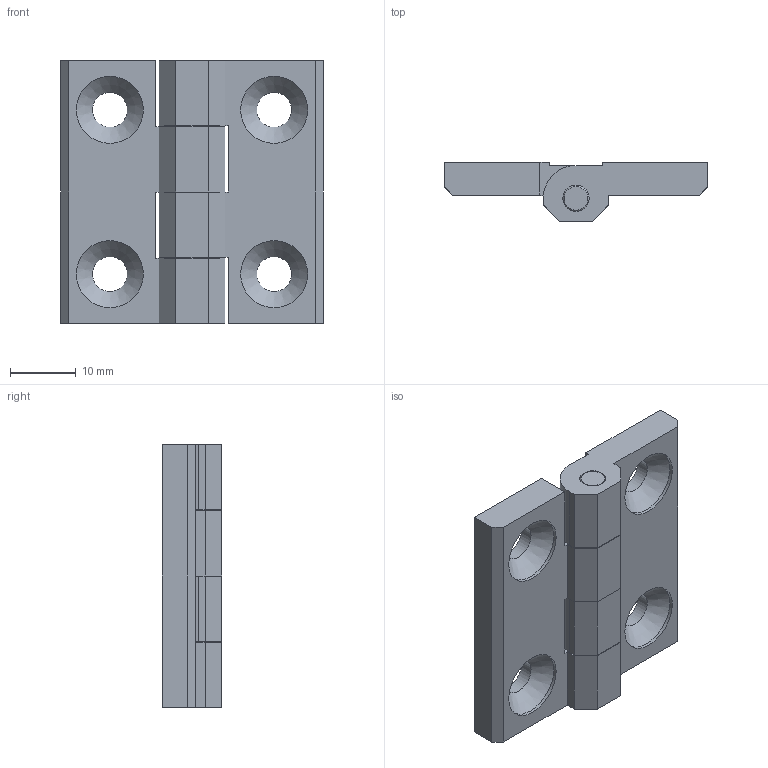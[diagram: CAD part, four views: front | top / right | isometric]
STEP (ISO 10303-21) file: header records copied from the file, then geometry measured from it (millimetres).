
FILE_DESCRIPTION( ( 'STEP AP203' ), '1' );
FILE_NAME( 'C:/Temp/Ganter_Step_05_03_2020/data/3_3/gn_237/gn_237_al/Aluminum-Hinge GN 237-AL-40-40-A-EL (0).stp', '2020-03-12T11:57:04', ( 'License CC BY-ND 4.0' ), ( 'CADENAS' ), ' ', 'PARTsolutions', ' ' );
FILE_SCHEMA( ( 'CONFIG_CONTROL_DESIGN' ) );
Length unit declared in the file: millimetre
Products named in the file (3): Aluminum-Hinge GN 237-AL-40-40-A-EL (0); _Aluminum-Hinge GN 237-AL-40-40-A-EL (0)_1; _Aluminum-Hinge GN 237-AL-40-40-A-EL (0)_2
Assembly tree (2 placements, depth 2):
  Aluminum-Hinge GN 237-AL-40-40-A-EL (0)
    _Aluminum-Hinge GN 237-AL-40-40-A-EL (0)_1
    _Aluminum-Hinge GN 237-AL-40-40-A-EL (0)_2
Bounding box: 40 x 9 x 40 mm (x, y, z)
Volume: 7957.6 mm3; surface area: 5463.8 mm2
Topology: 2 solids, 2 shells, 75 faces, 200 edges, 131 vertices
Faces by surface type: plane 52, cylinder 17, cone 6
Full cylindrical faces by diameter (mm): 4 x5, 5.3 x4, 10.2 x4
Entity records: 2328 total; most frequent: CARTESIAN_POINT 384, DIRECTION 370, ORIENTED_EDGE 356, EDGE_CURVE 178, LINE 142, VECTOR 142, VERTEX_POINT 128, AXIS2_PLACEMENT_3D 114
